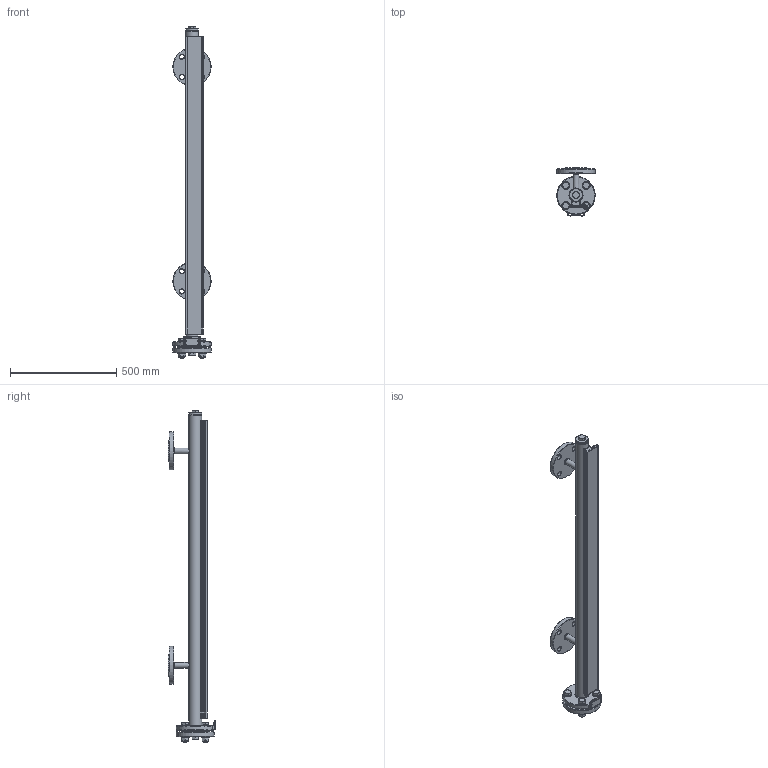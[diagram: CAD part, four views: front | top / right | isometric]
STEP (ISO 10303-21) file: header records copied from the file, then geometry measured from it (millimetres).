
FILE_DESCRIPTION(/* description */ (''),/* implementation_level */ '2;1');
FILE_NAME(/* name */ 'I:\Raj\3D\készülék rajzok\Összeállított készülékek\ML\ML_E_3.stp',/* time_stamp */ '2015-10-21T14:42:58+02:00',/* author */ ('aantal'),/* organization */ (''),/* preprocessor_version */ 'ST-DEVELOPER v15.6',/* originating_system */ 'Autodesk Inventor 2015',/* authorisation */ '');
FILE_SCHEMA (('AUTOMOTIVE_DESIGN { 1 0 10303 214 3 1 1 }'));
Length unit declared in the file: millimetre
Products named in the file (14): Cső 3E; DN50PN63; tábla1; ISO 4017 - M20 x 40ISO; ISO 4017 - M20 x 80ISO; ISO 7089 - 20 - 140 HV(1); ISO 4032 - M20ISO; D50 PN63 csav; kijelző; kijelzővégzáró; ISO 7045 - M3 x 5 - 4.8 - ZISO; üveg; mérőkijelző; ML_E_3
Bounding box: 180 x 224.5 x 1563.5 mm (x, y, z)
Volume: 4235359.3 mm3; surface area: 1648318.5 mm2
Topology: 33 solids, 33 shells, 943 faces, 2319 edges, 1491 vertices
Faces by surface type: plane 436, cone 227, cylinder 223, torus 45, sphere 10, bspline 2
Full cylindrical faces by diameter (mm): 2.729 x8, 2.9 x4, 3 x8, 17.294 x4, 20 x7, 20.5 x2, 21 x9, 22 x16, 26.9 x2, 28.19 x6, 37 x8, 54.5 x1, 60 x2, 61 x1, 102 x4, 180 x4
Entity records: 13957 total; most frequent: CARTESIAN_POINT 3024, DIRECTION 2294, ORIENTED_EDGE 2034, EDGE_CURVE 1017, AXIS2_PLACEMENT_3D 881, VERTEX_POINT 719, EDGE_LOOP 626, LINE 532
